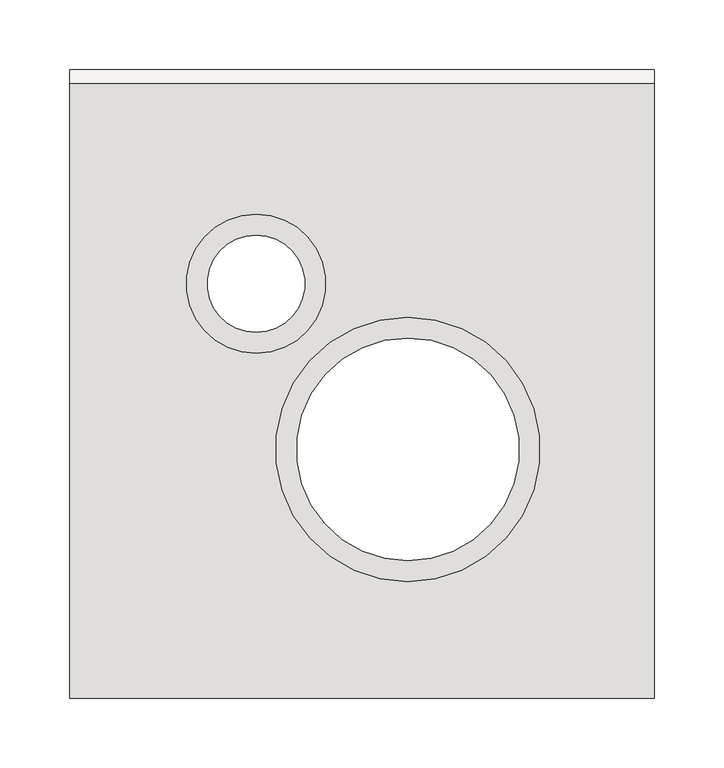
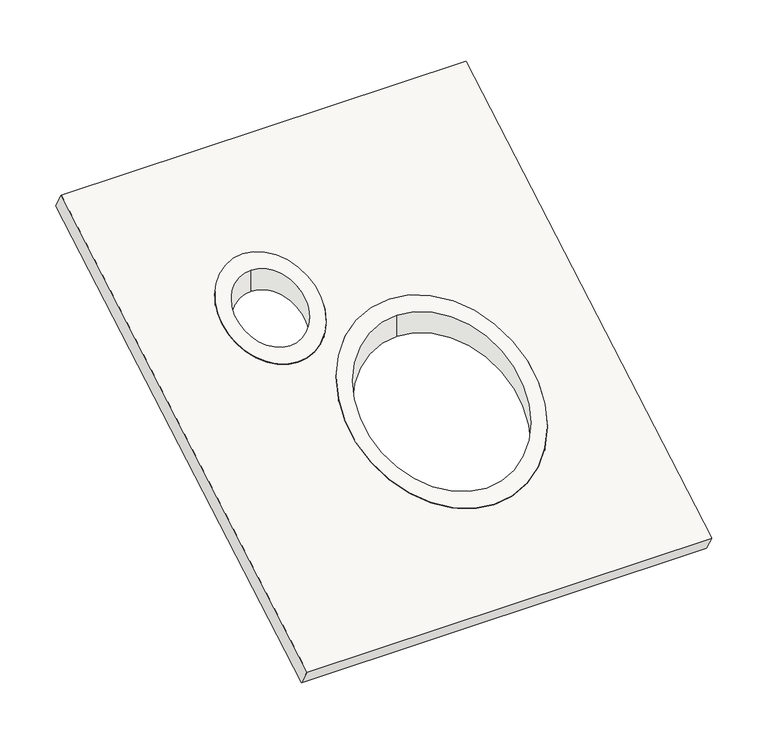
"""IFC4 building model written with IfcOpenShell, lengths in millimetres: covering geometry, RSen_GM_WPB_Mini Delta _roofboard_M&G : roofboard Mini-Delta."""

import ifcopenshell
import ifcopenshell.guid

model = None  # the IFC model being written
_history = None  # IfcOwnerHistory: only IFC2X3 demands one
_inside = {}  # id of a spatial element -> (the spatial element, [elements in it])
_under = {}  # id of a project, library or spatial element -> (it, [spatial elements below it])
_declared = {}  # id of a project -> (the project, [libraries it declares])
_typed = {}  # id of a type object -> (the type object, [elements of that type])
_made_of = {}  # id of a material, layer set ... -> (it, [elements and type objects made of it])


def new_model(schema):
    """Start an empty IFC model of exactly this schema.

    Asked for "IFC4X3", IfcOpenShell would pick the latest addendum, in which some entities
    have other attributes; the version numbers below select the first issue.
    IFC2X3 requires an IfcOwnerHistory on every rooted entity: one is made here for all.
    """
    global model, _history
    if schema == "IFC4X3":
        model = ifcopenshell.file(schema_version=(4, 3, 0, 0))
    else:
        model = ifcopenshell.file(schema=schema)
    _inside.clear()
    _under.clear()
    _declared.clear()
    _typed.clear()
    _made_of.clear()
    _history = None
    if model.schema == "IFC2X3":
        org = make("IfcOrganization", Name="unknown")
        user = make(
            "IfcPersonAndOrganization",
            ThePerson=make("IfcPerson", FamilyName="unknown"),
            TheOrganization=org,
        )
        app = make(
            "IfcApplication",
            ApplicationDeveloper=org,
            Version="unknown",
            ApplicationFullName="unknown",
            ApplicationIdentifier="unknown",
        )
        _history = make(
            "IfcOwnerHistory",
            OwningUser=user,
            OwningApplication=app,
            ChangeAction="ADDED",
            CreationDate=0,
        )
    return model


def make(cls, **values):
    """One entity of the class cls with the attributes given. An attribute that is None is left unset."""
    return model.create_entity(
        cls, **{name: value for name, value in values.items() if value is not None}
    )


def rooted(cls, **values):
    """An entity with a GlobalId (a new one), such as an element, a storey or a relation."""
    return make(cls, GlobalId=ifcopenshell.guid.new(), OwnerHistory=_history, **values)


def si_unit(unit_type, name, prefix=None):
    """IfcSIUnit, for example si_unit("LENGTHUNIT", "METRE", prefix="MILLI")."""
    return make("IfcSIUnit", UnitType=unit_type, Prefix=prefix, Name=name)


def assignment(units):
    """IfcUnitAssignment: the units of a project."""
    return None if units is None else make("IfcUnitAssignment", Units=units)


def point(xyz):
    """IfcCartesianPoint."""
    return None if xyz is None else make("IfcCartesianPoint", Coordinates=xyz)


def direction(xyz):
    """IfcDirection."""
    return None if xyz is None else make("IfcDirection", DirectionRatios=xyz)


def frame(location, z_axis=None, x_axis=None):
    """IfcAxis2Placement3D, a coordinate frame: its origin and axes. An axis left out is left unset."""
    return make(
        "IfcAxis2Placement3D",
        Location=point(location),
        Axis=direction(z_axis),
        RefDirection=direction(x_axis),
    )


def origin():
    """The frame at (0, 0, 0) with its axes left unset."""
    return frame((0.0, 0.0, 0.0))


def place(relative_to, where):
    """IfcLocalPlacement: puts the frame where relative to a parent placement (None: the world)."""
    return make(
        "IfcLocalPlacement", PlacementRelTo=relative_to, RelativePlacement=where
    )


def context(
    kind, dimensions, precision=None, world=None, true_north=None, identifier=None
):
    """IfcGeometricRepresentationContext, for example the 3D "Model" context."""
    return make(
        "IfcGeometricRepresentationContext",
        ContextIdentifier=identifier,
        ContextType=kind,
        CoordinateSpaceDimension=dimensions,
        Precision=precision,
        WorldCoordinateSystem=world,
        TrueNorth=true_north,
    )


def project(units=None, contexts=None):
    """IfcProject with its units and contexts."""
    return rooted(
        "IfcProject",
        Name="project",
        RepresentationContexts=contexts,
        UnitsInContext=assignment(units),
    )


def spatial(cls, under=None, at=None, **own):
    """A site, building, storey or space (cls), placed at a placement, below another one or the project."""
    s = rooted(cls, ObjectPlacement=at, **own)
    if under is not None:
        _under.setdefault(under.id(), (under, []))[1].append(s)
    return s


def polyline(points):
    """IfcPolyline through the points."""
    return make("IfcPolyline", Points=[point(p) for p in points])


def ellipse_curve(where, semi_axis1, semi_axis2):
    """IfcEllipse in the frame where."""
    return make(
        "IfcEllipse", Position=where, SemiAxis1=semi_axis1, SemiAxis2=semi_axis2
    )


def shape(context_of_items, identifier, shape_type, items):
    """IfcShapeRepresentation: the items that make up one representation, for example the "Body"."""
    return make(
        "IfcShapeRepresentation",
        ContextOfItems=context_of_items,
        RepresentationIdentifier=identifier,
        RepresentationType=shape_type,
        Items=items,
    )


def source(mapping_origin, context_of_items, identifier, shape_type, items):
    """IfcRepresentationMap: a shape defined once, which mapped items show again and again."""
    return make(
        "IfcRepresentationMap",
        MappingOrigin=mapping_origin,
        MappedRepresentation=shape(context_of_items, identifier, shape_type, items),
    )


def transform(
    local_origin,
    x_axis=None,
    y_axis=None,
    z_axis=None,
    scale=None,
    scale2=None,
    scale3=None,
    uniform=True,
):
    """IfcCartesianTransformationOperator3D, or its non-uniform kind. x_axis, y_axis, z_axis: its Axis1, 2, 3."""
    if uniform:
        return make(
            "IfcCartesianTransformationOperator3D",
            Axis1=direction(x_axis),
            Axis2=direction(y_axis),
            LocalOrigin=point(local_origin),
            Scale=scale,
            Axis3=direction(z_axis),
        )
    return make(
        "IfcCartesianTransformationOperator3DnonUniform",
        Axis1=direction(x_axis),
        Axis2=direction(y_axis),
        LocalOrigin=point(local_origin),
        Scale=scale,
        Axis3=direction(z_axis),
        Scale2=scale2,
        Scale3=scale3,
    )


def mapped(mapping_source, mapping_target):
    """IfcMappedItem: shows the shape of a source again, moved by a transform."""
    return make(
        "IfcMappedItem", MappingSource=mapping_source, MappingTarget=mapping_target
    )


def made_of(thing, what):
    """Note that an element or type object is made of a material, layer set ...; save() writes the relation."""
    if what is not None:
        _made_of.setdefault(what.id(), (what, []))[1].append(thing)
    return thing


def element(
    cls,
    number,
    at=None,
    inside=None,
    cuts=None,
    type_object=None,
    material=None,
    context=None,
    identifier="Body",
    shape_type=None,
    held_by="IfcProductDefinitionShape",
    body=None,
    shapes=None,
    **own,
):
    """One element of the class cls, such as IfcWall. Its Tag is "e" and its number.

    at: its placement. inside: the storey or other place that contains it. cuts: it is an
    opening in that element (IfcRelVoidsElement). A single representation is given by context,
    identifier, shape_type and body (its items); several are given by shapes. held_by: the class
    of the entity that holds the representations. save() writes the other relations.
    """
    e = rooted(cls, Tag="e%d" % number, ObjectPlacement=at, **own)
    if body is not None:
        shapes = [shape(context, identifier, shape_type, body)]
    if shapes is not None:
        e.Representation = make(held_by, Representations=shapes)
    if inside is not None:
        _inside.setdefault(inside.id(), (inside, []))[1].append(e)
    if cuts is not None:
        rooted(
            "IfcRelVoidsElement", RelatingBuildingElement=cuts, RelatedOpeningElement=e
        )
    if type_object is not None:
        _typed.setdefault(type_object.id(), (type_object, []))[1].append(e)
    return made_of(e, material)


def aggregate(whole, parts):
    """IfcRelAggregates: a whole, such as a stair, and the parts it consists of."""
    return rooted("IfcRelAggregates", RelatingObject=whole, RelatedObjects=parts)


def save(model, path):
    """Write the relations noted so far, then the file.

    IfcRelAggregates (storeys below a building ...), IfcRelContainedInSpatialStructure (elements
    in a storey), IfcRelDefinesByType, IfcRelAssociatesMaterial and IfcRelDeclares: one each for
    every whole, place, type object, material and project.
    """
    for whole, parts in _under.values():
        aggregate(whole, parts)
    for where, things in _inside.values():
        rooted(
            "IfcRelContainedInSpatialStructure",
            RelatedElements=things,
            RelatingStructure=where,
        )
    for kind, things in _typed.values():
        rooted("IfcRelDefinesByType", RelatedObjects=things, RelatingType=kind)
    for what, things in _made_of.values():
        rooted("IfcRelAssociatesMaterial", RelatedObjects=things, RelatingMaterial=what)
    for by, libraries in _declared.values():
        rooted("IfcRelDeclares", RelatingContext=by, RelatedDefinitions=libraries)
    model.write(path)


def plane_surface(at):
    """IfcPlane: the flat surface through the origin of the frame at, square to its z axis."""
    return make("IfcPlane", Position=at)


def cylinder_surface(at, radius):
    """IfcCylindricalSurface: all points at the distance radius from the z axis of the frame at."""
    return make("IfcCylindricalSurface", Position=at, Radius=radius)


def revolved_surface(curve, axis_point, axis_direction):
    """IfcSurfaceOfRevolution: the curve turned about the line through axis_point along axis_direction."""
    return make(
        "IfcSurfaceOfRevolution",
        SweptCurve=make("IfcArbitraryOpenProfileDef", ProfileType="CURVE", Curve=curve),
        AxisPosition=make("IfcAxis1Placement", Location=point(axis_point), Axis=direction(axis_direction)),
    )


def advanced_brep(points, edges, surfaces, faces):
    """IfcAdvancedBrep: a solid bounded by faces that lie on surfaces and meet in shared edges.

    An edge is (start, end): straight between two places in points (the first is 0);
    or (start, end, curve); or (start, end, curve, False) where it runs against its curve.
    A face is (place in surfaces, loops), or (place, loops, False) where it looks against
    its surface's normal. A loop lists edges by number (the first is 1), with a minus sign
    where the edge is run from its end to its start. The first loop is the outer one.
    """
    corners = [point(p) for p in points]
    vertices = [make("IfcVertexPoint", VertexGeometry=c) for c in corners]
    made = []
    for start, end, *more in edges:
        made.append(
            make(
                "IfcEdgeCurve",
                EdgeStart=vertices[start],
                EdgeEnd=vertices[end],
                EdgeGeometry=more[0] if more else make("IfcPolyline", Points=[corners[start], corners[end]]),
                SameSense=more[1] if len(more) > 1 else True,
            )
        )
    hull = []
    for where, loops, *sense in faces:
        bounds = []
        for j, loop in enumerate(loops):
            ring = [make("IfcOrientedEdge", EdgeElement=made[abs(k) - 1], Orientation=k > 0) for k in loop]
            bounds.append(
                make(
                    "IfcFaceOuterBound" if j == 0 else "IfcFaceBound",
                    Bound=make("IfcEdgeLoop", EdgeList=ring),
                    Orientation=True,
                )
            )
        hull.append(make("IfcAdvancedFace", Bounds=bounds, FaceSurface=surfaces[where], SameSense=sense[0] if sense else True))
    return make("IfcAdvancedBrep", Outer=make("IfcClosedShell", CfsFaces=hull))


def covering_1233ec95(model_context):
    return source(origin(), model_context, "Body", "AdvancedBrep", [
        advanced_brep(
        [(33.0, 38.0, -1.1547005), (33.0, -122.0, -93.5307436), (33.0, -122.0, -70.4367328), (33.0, 38.0, 21.9393102), (33.0, -137.0, -102.1909976), (33.0, 53.0, 7.5055535), (33.0, 53.0, 30.5995643), (33.0, -137.0, -79.0969869)],
        [
            (0, 1, ellipse_curve(frame((33.0, -42.0, -47.3427221), z_axis=(0.0, 0.4999999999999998, -0.8660254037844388), x_axis=(0.0, -0.866025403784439, -0.49999999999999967)), 92.3760431, 80.0)),
            (1, 2),
            (2, 3, ellipse_curve(frame((33.0, -42.0, -24.2487113), z_axis=(0.0, -0.4999999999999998, 0.8660254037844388), x_axis=(0.0, -0.866025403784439, -0.49999999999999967)), 92.3760431, 80.0)),
            (3, 0),
            (1, 0, ellipse_curve(frame((33.0, -42.0, -47.3427221), z_axis=(0.0, 0.4999999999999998, -0.8660254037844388), x_axis=(0.0, -0.866025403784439, -0.49999999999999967)), 92.3760431, 80.0)),
            (3, 2, ellipse_curve(frame((33.0, -42.0, -24.2487113), z_axis=(0.0, -0.4999999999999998, 0.8660254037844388), x_axis=(0.0, -0.866025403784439, -0.49999999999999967)), 92.3760431, 80.0)),
            (4, 5, ellipse_curve(frame((33.0, -42.0, -47.3427221), z_axis=(0.0, -0.4999999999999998, 0.8660254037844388), x_axis=(0.0, 0.866025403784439, 0.49999999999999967)), 109.6965511, 95.0)),
            (5, 6),
            (6, 7, ellipse_curve(frame((33.0, -42.0, -24.2487113), z_axis=(0.0, 0.4999999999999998, -0.8660254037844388), x_axis=(0.0, 0.866025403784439, 0.49999999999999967)), 109.6965511, 95.0)),
            (7, 4),
            (5, 4, ellipse_curve(frame((33.0, -42.0, -47.3427221), z_axis=(0.0, -0.4999999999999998, 0.8660254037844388), x_axis=(0.0, 0.866025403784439, 0.49999999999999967)), 109.6965511, 95.0)),
            (7, 6, ellipse_curve(frame((33.0, -42.0, -24.2487113), z_axis=(0.0, 0.4999999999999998, -0.8660254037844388), x_axis=(0.0, 0.866025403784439, 0.49999999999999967)), 109.6965511, 95.0)),
        ],
        [
            revolved_surface(polyline([(33.0, 38.0, -93.53074364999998), (33.0, 38.0, 21.939310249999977)]), (33.0, -42.0, -200.0), (0.0, 0.0, -1.0)),
            cylinder_surface(frame((33.0, -42.0, 0.0), z_axis=(0.0, 0.0, 1.0), x_axis=(0.0, 1.0, 0.0)), 95.0),
            plane_surface(frame((210.0, -210.836478, -144.8205081), z_axis=(0.0, 0.4999999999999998, -0.8660254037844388), x_axis=(0.0, 0.8660254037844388, 0.4999999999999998))),
            plane_surface(frame((210.0, -220.836478, -127.5), z_axis=(0.0, -0.4999999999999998, 0.8660254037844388), x_axis=(0.0, -0.8660254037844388, -0.4999999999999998))),
        ],
        [
            (0, [[1, 2, 3, 4]]),
            (0, [[5, -4, 6, -2]]),
            (1, [[7, 8, 9, 10]]),
            (1, [[11, -10, 12, -8]]),
            (2, [[-7, -11], [-1, -5]]),
            (3, [[-9, -12], [-3, -6]]),
        ],
    ),
        advanced_brep(
        [(-76.0, 42.0, 24.2487113), (-76.0, 112.0, 64.6632301), (-76.0, 112.0, 41.5692194), (-76.0, 42.0, 1.1547005), (-76.0, 127.0, 73.3234842), (-76.0, 27.0, 15.5884573), (-76.0, 27.0, -7.5055535), (-76.0, 127.0, 50.2294734)],
        [
            (0, 1, ellipse_curve(frame((-76.0, 77.0, 44.4559707), z_axis=(0.0, -0.4999999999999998, 0.8660254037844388), x_axis=(0.0, -0.866025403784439, -0.49999999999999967)), 40.4145188, 35.0)),
            (1, 2),
            (2, 3, ellipse_curve(frame((-76.0, 77.0, 21.36196), z_axis=(0.0, 0.4999999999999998, -0.8660254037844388), x_axis=(0.0, -0.866025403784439, -0.49999999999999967)), 40.4145188, 35.0)),
            (3, 0),
            (1, 0, ellipse_curve(frame((-76.0, 77.0, 44.4559707), z_axis=(0.0, -0.4999999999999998, 0.8660254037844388), x_axis=(0.0, -0.866025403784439, -0.49999999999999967)), 40.4145188, 35.0)),
            (3, 2, ellipse_curve(frame((-76.0, 77.0, 21.36196), z_axis=(0.0, 0.4999999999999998, -0.8660254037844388), x_axis=(0.0, -0.866025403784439, -0.49999999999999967)), 40.4145188, 35.0)),
            (4, 5, ellipse_curve(frame((-76.0, 77.0, 44.4559707), z_axis=(0.0, 0.4999999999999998, -0.8660254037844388), x_axis=(0.0, 0.866025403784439, 0.49999999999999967)), 57.7350269, 50.0)),
            (5, 6),
            (6, 7, ellipse_curve(frame((-76.0, 77.0, 21.36196), z_axis=(0.0, -0.4999999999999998, 0.8660254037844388), x_axis=(0.0, 0.866025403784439, 0.49999999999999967)), 57.7350269, 50.0)),
            (7, 4),
            (5, 4, ellipse_curve(frame((-76.0, 77.0, 44.4559707), z_axis=(0.0, 0.4999999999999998, -0.8660254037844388), x_axis=(0.0, 0.866025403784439, 0.49999999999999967)), 57.7350269, 50.0)),
            (7, 6, ellipse_curve(frame((-76.0, 77.0, 21.36196), z_axis=(0.0, -0.4999999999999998, 0.8660254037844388), x_axis=(0.0, 0.866025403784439, 0.49999999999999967)), 57.7350269, 50.0)),
        ],
        [
            revolved_surface(polyline([(-76.0, 112.0, 1.15470049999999), (-76.0, 112.0, 64.66323010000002)]), (-76.0, 77.0, -200.0), (0.0, 0.0, -1.0)),
            cylinder_surface(frame((-76.0, 77.0, 0.0), z_axis=(0.0, 0.0, 1.0), x_axis=(0.0, 1.0, 0.0)), 50.0),
            plane_surface(frame((210.0, -220.836478, -127.5), z_axis=(0.0, -0.4999999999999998, 0.8660254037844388), x_axis=(0.0, -0.8660254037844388, -0.4999999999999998))),
            plane_surface(frame((210.0, -210.836478, -144.8205081), z_axis=(0.0, 0.4999999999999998, -0.8660254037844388), x_axis=(0.0, 0.8660254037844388, 0.4999999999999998))),
        ],
        [
            (0, [[1, 2, 3, 4]]),
            (0, [[5, -4, 6, -2]]),
            (1, [[7, 8, 9, 10]]),
            (1, [[11, -10, 12, -8]]),
            (2, [[-7, -11], [-1, -5]]),
            (3, [[-9, -12], [-3, -6]]),
        ],
    ),
        advanced_brep(
        [(210.0, -210.836478, -144.8205081), (-210.0, -210.836478, -144.8205081), (-210.0, 230.836478, 110.1794919), (210.0, 230.836478, 110.1794919), (33.0, -137.0, -102.1909976), (33.0, 53.0, 7.5055535), (-76.0, 27.0, -7.5055535), (-76.0, 127.0, 50.2294734), (210.0, -220.836478, -127.5), (210.0, 220.836478, 127.5), (-210.0, 220.836478, 127.5), (-210.0, -220.836478, -127.5), (33.0, 53.0, 30.5995643), (33.0, -137.0, -79.0969869), (-76.0, 127.0, 73.3234842), (-76.0, 27.0, 15.5884573)],
        [
            (0, 1),
            (1, 2),
            (2, 3),
            (3, 0),
            (4, 5, ellipse_curve(frame((33.0, -42.0, -47.3427221), z_axis=(0.0, -0.4999999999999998, 0.8660254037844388), x_axis=(0.0, 0.866025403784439, 0.49999999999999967)), 109.6965511, 95.0)),
            (5, 4, ellipse_curve(frame((33.0, -42.0, -47.3427221), z_axis=(0.0, -0.4999999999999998, 0.8660254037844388), x_axis=(0.0, 0.866025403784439, 0.49999999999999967)), 109.6965511, 95.0)),
            (6, 7, ellipse_curve(frame((-76.0, 77.0, 21.36196), z_axis=(0.0, -0.4999999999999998, 0.8660254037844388), x_axis=(0.0, 0.866025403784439, 0.49999999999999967)), 57.7350269, 50.0)),
            (7, 6, ellipse_curve(frame((-76.0, 77.0, 21.36196), z_axis=(0.0, -0.4999999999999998, 0.8660254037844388), x_axis=(0.0, 0.866025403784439, 0.49999999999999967)), 57.7350269, 50.0)),
            (8, 9),
            (9, 10),
            (10, 11),
            (11, 8),
            (12, 13, ellipse_curve(frame((33.0, -42.0, -24.2487113), z_axis=(0.0, 0.4999999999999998, -0.8660254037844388), x_axis=(0.0, 0.866025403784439, 0.49999999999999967)), 109.6965511, 95.0)),
            (13, 12, ellipse_curve(frame((33.0, -42.0, -24.2487113), z_axis=(0.0, 0.4999999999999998, -0.8660254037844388), x_axis=(0.0, 0.866025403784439, 0.49999999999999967)), 109.6965511, 95.0)),
            (14, 15, ellipse_curve(frame((-76.0, 77.0, 44.4559707), z_axis=(0.0, 0.4999999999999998, -0.8660254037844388), x_axis=(0.0, 0.866025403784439, 0.49999999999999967)), 57.7350269, 50.0)),
            (15, 14, ellipse_curve(frame((-76.0, 77.0, 44.4559707), z_axis=(0.0, 0.4999999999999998, -0.8660254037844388), x_axis=(0.0, 0.866025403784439, 0.49999999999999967)), 57.7350269, 50.0)),
            (3, 9),
            (8, 0),
            (2, 10),
            (1, 11),
            (4, 13),
            (12, 5),
            (6, 15),
            (14, 7),
        ],
        [
            plane_surface(frame((210.0, -210.836478, -144.8205081), z_axis=(0.0, 0.4999999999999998, -0.8660254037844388), x_axis=(0.0, -0.8660254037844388, -0.4999999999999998))),
            plane_surface(frame((210.0, -220.836478, -127.5), z_axis=(0.0, -0.4999999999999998, 0.8660254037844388), x_axis=(0.0, 0.8660254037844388, 0.4999999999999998))),
            plane_surface(frame((210.0, -220.836478, -127.5), z_axis=(1.0, 0.0, 0.0), x_axis=(0.0, 0.5000000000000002, -0.8660254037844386))),
            plane_surface(frame((210.0, 220.836478, 127.5), z_axis=(0.0, 0.8660254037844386, 0.5000000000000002), x_axis=(0.0, 0.5000000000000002, -0.8660254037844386))),
            plane_surface(frame((-210.0, 220.836478, 127.5), z_axis=(-1.0, 0.0, 0.0), x_axis=(0.0, 0.5000000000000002, -0.8660254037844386))),
            plane_surface(frame((-210.0, -220.836478, -127.5), z_axis=(0.0, -0.8660254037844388, -0.49999999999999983), x_axis=(0.0, 0.49999999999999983, -0.8660254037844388))),
            revolved_surface(polyline([(33.0, 53.0, 30.599564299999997), (33.0, 53.0, -102.19099764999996)]), (33.0, -42.0, -350.0), (0.0, 0.0, 1.0)),
            revolved_surface(polyline([(-76.0, 127.0, 73.3234842), (-76.0, 127.0, -7.505553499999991)]), (-76.0, 77.0, -200.0), (0.0, 0.0, 1.0)),
        ],
        [
            (0, [[1, 2, 3, 4], [5, 6], [7, 8]]),
            (1, [[9, 10, 11, 12], [13, 14], [15, 16]]),
            (2, [[-4, 17, -9, 18]]),
            (3, [[-3, 19, -10, -17]]),
            (4, [[-2, 20, -11, -19]]),
            (5, [[-1, -18, -12, -20]]),
            (6, [[21, -13, 22, -5]]),
            (6, [[-21, -6, -22, -14]]),
            (7, [[23, -15, 24, -7]]),
            (7, [[-23, -8, -24, -16]]),
        ],
    ),
    ])


if __name__ == "__main__":
    model = new_model("IFC4")
    model_context = context("Model", 3, world=origin())
    ifc_project = project(units=[si_unit("LENGTHUNIT", "METRE", prefix="MILLI")], contexts=[model_context])
    site = spatial("IfcSite", under=ifc_project)
    building = spatial("IfcBuilding", under=site)
    placement = place(None, origin())
    covering_shape = covering_1233ec95(model_context)
    element("IfcCovering", 1, ObjectType="RSen_GM_WPB_Mini Delta _roofboard_M&G : roofboard Mini-Delta", at=placement, inside=building, context=model_context, shape_type="MappedRepresentation", body=[
        mapped(covering_shape, transform((0.0, 0.0, 0.0), x_axis=(1.0, 0.0, 0.0), y_axis=(0.0, 1.0, 0.0), z_axis=(0.0, 0.0, 1.0))),
    ])
    save(model, "model.ifc")
